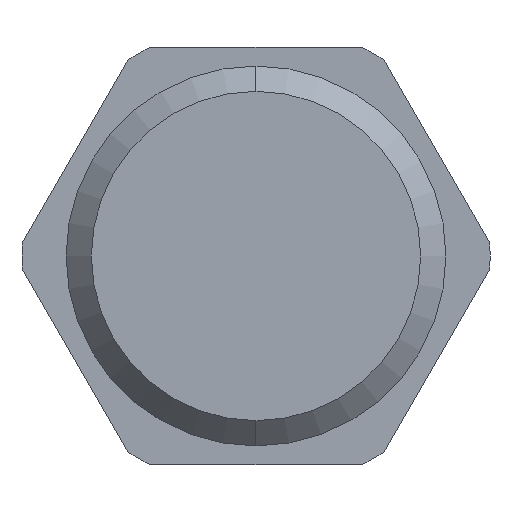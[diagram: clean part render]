
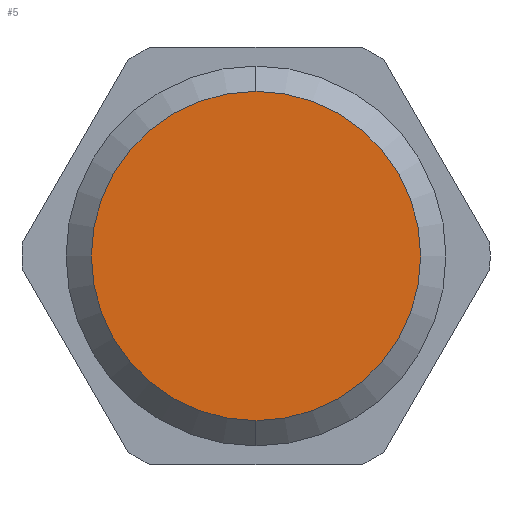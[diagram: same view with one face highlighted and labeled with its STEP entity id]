
A CAD part, left-side view. The second image highlights one B-rep face of the part: STEP entity #5.
In plain terms, the highlighted planar face has unit normal (-1, 0, 0).
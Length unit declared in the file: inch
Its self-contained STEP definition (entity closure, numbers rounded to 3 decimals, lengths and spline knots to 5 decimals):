
#5 = ADVANCED_FACE ( 'NONE', ( #48 ), #235, .T. ) ;
#48 = FACE_OUTER_BOUND ( 'NONE', #711, .T. ) ;
#60 = CIRCLE ( 'NONE', #559, 0.5417 ) ;
#124 = CIRCLE ( 'NONE', #499, 0.5417 ) ;
#161 = DIRECTION ( 'NONE',  ( 0., 0., 1. ) ) ;
#228 = CARTESIAN_POINT ( 'NONE',  ( -2.834, 0.3125, 0. ) ) ;
#229 = DIRECTION ( 'NONE',  ( -1., 0., 0. ) ) ;
#235 = PLANE ( 'NONE',  #485 ) ;
#335 = CARTESIAN_POINT ( 'NONE',  ( -2.834, 0., -0.5417 ) ) ;
#357 = EDGE_CURVE ( 'NONE', #705, #735, #124, .T. ) ;
#402 = CARTESIAN_POINT ( 'NONE',  ( -2.834, 0., 0.5417 ) ) ;
#408 = CARTESIAN_POINT ( 'NONE',  ( -2.834, 0., 0. ) ) ;
#409 = DIRECTION ( 'NONE',  ( 1., 0., 0. ) ) ;
#432 = DIRECTION ( 'NONE',  ( 0., 0., -1. ) ) ;
#479 = EDGE_CURVE ( 'NONE', #735, #705, #60, .T. ) ;
#485 = AXIS2_PLACEMENT_3D ( 'NONE', #228, #229, #161 ) ;
#499 = AXIS2_PLACEMENT_3D ( 'NONE', #653, #655, #654 ) ;
#559 = AXIS2_PLACEMENT_3D ( 'NONE', #408, #409, #432 ) ;
#653 = CARTESIAN_POINT ( 'NONE',  ( -2.834, 0., 0. ) ) ;
#654 = DIRECTION ( 'NONE',  ( 0., 0., -1. ) ) ;
#655 = DIRECTION ( 'NONE',  ( 1., 0., 0. ) ) ;
#705 = VERTEX_POINT ( 'NONE', #402 ) ;
#711 = EDGE_LOOP ( 'NONE', ( #830, #820 ) ) ;
#735 = VERTEX_POINT ( 'NONE', #335 ) ;
#820 = ORIENTED_EDGE ( 'NONE', *, *, #357, .F. ) ;
#830 = ORIENTED_EDGE ( 'NONE', *, *, #479, .F. ) ;
